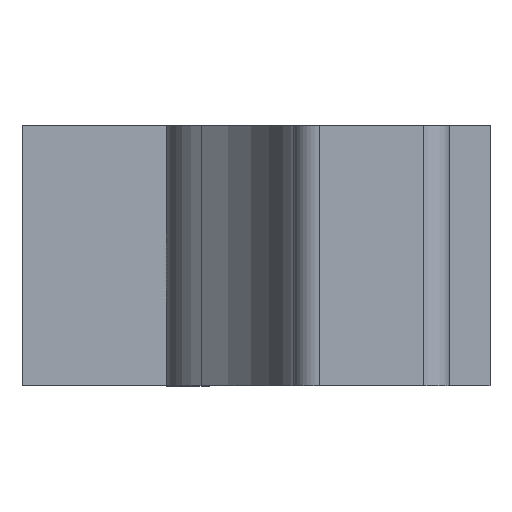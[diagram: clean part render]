
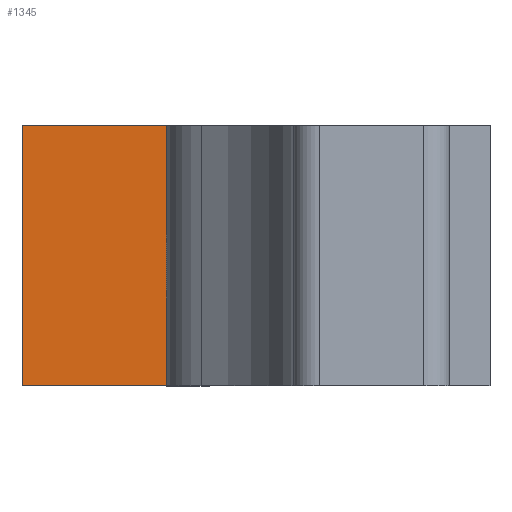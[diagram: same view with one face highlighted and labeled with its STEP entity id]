
A CAD part, front view. The second image highlights one B-rep face of the part: STEP entity #1345.
In plain terms, the highlighted planar face has unit normal (0, -1, 0).
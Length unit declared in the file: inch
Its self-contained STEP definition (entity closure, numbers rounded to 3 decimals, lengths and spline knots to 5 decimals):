
#52 = VERTEX_POINT ( 'NONE', #1598 ) ;
#62 = VERTEX_POINT ( 'NONE', #942 ) ;
#93 = EDGE_CURVE ( 'NONE', #52, #62, #1448, .T. ) ;
#98 = CARTESIAN_POINT ( 'NONE',  ( -0.35433, 0., 0. ) ) ;
#108 = ORIENTED_EDGE ( 'NONE', *, *, #751, .T. ) ;
#132 = FACE_OUTER_BOUND ( 'NONE', #1462, .T. ) ;
#137 = CARTESIAN_POINT ( 'NONE',  ( -0.35433, 0., 0.3937 ) ) ;
#245 = DIRECTION ( 'NONE',  ( 1., 0., 0. ) ) ;
#385 = CARTESIAN_POINT ( 'NONE',  ( -0.13575, 0., 0. ) ) ;
#408 = DIRECTION ( 'NONE',  ( 0., 1., 0. ) ) ;
#420 = VECTOR ( 'NONE', #972, 39.37008 ) ;
#460 = LINE ( 'NONE', #971, #1008 ) ;
#608 = EDGE_CURVE ( 'NONE', #700, #694, #875, .T. ) ;
#616 = ORIENTED_EDGE ( 'NONE', *, *, #1255, .T. ) ;
#693 = AXIS2_PLACEMENT_3D ( 'NONE', #137, #408, #1639 ) ;
#694 = VERTEX_POINT ( 'NONE', #385 ) ;
#700 = VERTEX_POINT ( 'NONE', #98 ) ;
#751 = EDGE_CURVE ( 'NONE', #52, #700, #460, .T. ) ;
#875 = LINE ( 'NONE', #1441, #1370 ) ;
#887 = ORIENTED_EDGE ( 'NONE', *, *, #608, .T. ) ;
#942 = CARTESIAN_POINT ( 'NONE',  ( -0.13575, 0., 0.3937 ) ) ;
#949 = PLANE ( 'NONE',  #693 ) ;
#968 = CARTESIAN_POINT ( 'NONE',  ( -0.35433, 0., 0.3937 ) ) ;
#971 = CARTESIAN_POINT ( 'NONE',  ( -0.35433, 0., 0.3937 ) ) ;
#972 = DIRECTION ( 'NONE',  ( 1., 0., 0. ) ) ;
#1008 = VECTOR ( 'NONE', #1106, 39.37008 ) ;
#1106 = DIRECTION ( 'NONE',  ( 0., 0., -1. ) ) ;
#1150 = LINE ( 'NONE', #1344, #1444 ) ;
#1212 = DIRECTION ( 'NONE',  ( 0., 0., 1. ) ) ;
#1255 = EDGE_CURVE ( 'NONE', #694, #62, #1150, .T. ) ;
#1344 = CARTESIAN_POINT ( 'NONE',  ( -0.13575, 0., -0.81643 ) ) ;
#1345 = ADVANCED_FACE ( 'NONE', ( #132 ), #949, .F. ) ;
#1370 = VECTOR ( 'NONE', #245, 39.37008 ) ;
#1441 = CARTESIAN_POINT ( 'NONE',  ( -0.35433, 0., 0. ) ) ;
#1444 = VECTOR ( 'NONE', #1212, 39.37008 ) ;
#1448 = LINE ( 'NONE', #968, #420 ) ;
#1462 = EDGE_LOOP ( 'NONE', ( #616, #1638, #108, #887 ) ) ;
#1598 = CARTESIAN_POINT ( 'NONE',  ( -0.35433, 0., 0.3937 ) ) ;
#1638 = ORIENTED_EDGE ( 'NONE', *, *, #93, .F. ) ;
#1639 = DIRECTION ( 'NONE',  ( 0., 0., 1. ) ) ;
